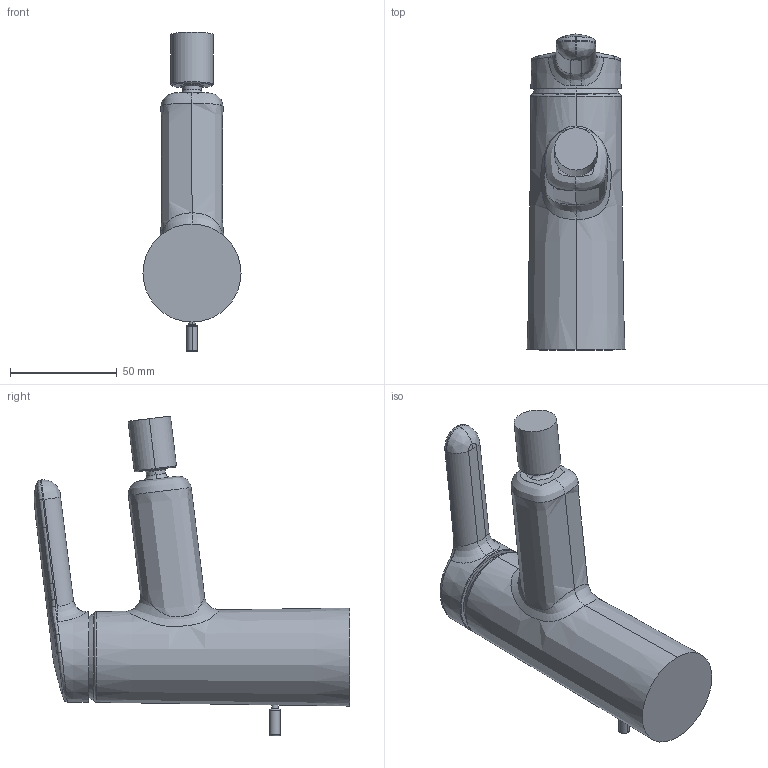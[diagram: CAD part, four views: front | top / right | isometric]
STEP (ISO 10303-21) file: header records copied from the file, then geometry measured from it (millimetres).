
FILE_DESCRIPTION((''),'2;1');
FILE_NAME('13478041','2020-09-22T16:25:29',('SN986'),(''),'CREO PARAMETRIC BY PTC INC, 2018500','CREO PARAMETRIC BY PTC INC, 2018500','');
FILE_SCHEMA(('CONFIG_CONTROL_DESIGN'));
Length unit declared in the file: millimetre
Products named in the file (1): 13478041
Bounding box: 46 x 148.13 x 150.04 mm (x, y, z)
Volume: 275851.7 mm3; surface area: 33467.5 mm2
Topology: 1 solids, 1 shells, 93 faces, 211 edges, 124 vertices
Faces by surface type: bspline 34, cylinder 20, torus 14, plane 10, cone 7, sphere 5, extrusion 3
Entity records: 7875 total; most frequent: CARTESIAN_POINT 6044, ORIENTED_EDGE 422, DIRECTION 286, EDGE_CURVE 211, VERTEX_POINT 124, AXIS2_PLACEMENT_3D 123, B_SPLINE_CURVE_WITH_KNOTS 110, EDGE_LOOP 97
